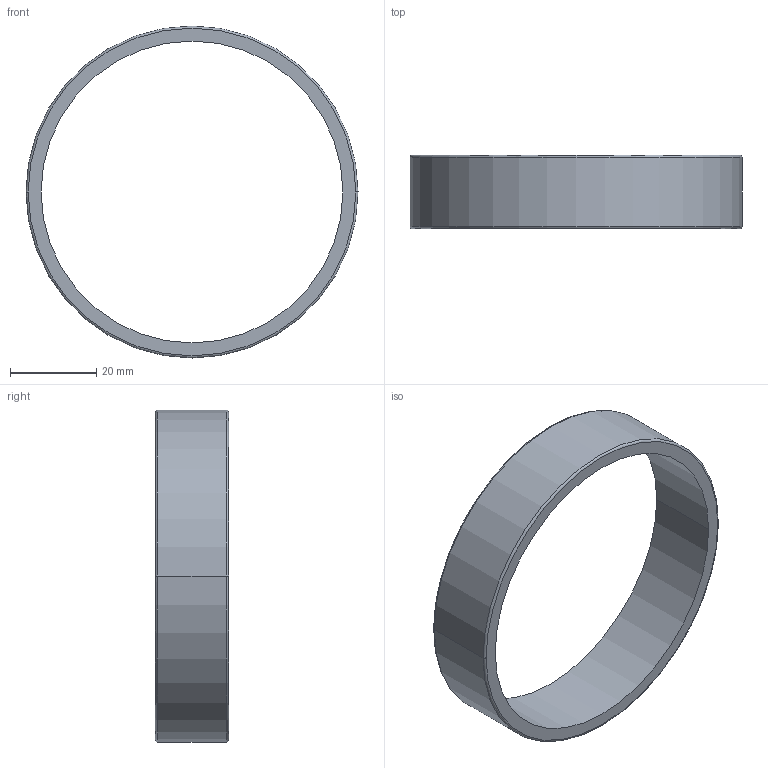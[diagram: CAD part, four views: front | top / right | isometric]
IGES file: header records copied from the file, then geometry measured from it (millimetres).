
Start section: IGES file generated by C3D Converter 1.6 translator by C3D Labs., translator version IGESOUT-5.1.
Global section: file name: HC:\Users\沓膼\OneDrive\Desktop\欙鵳醆TL70\鐕謽僗\扻錪犩.igs; preprocessor: 1.0; author: 沓膼,7; organization: Hunknown; date: -17760826:041600; units: millimetre
Bounding box: 77 x 17 x 77 mm (x, y, z)
Volume: 13713.1 mm3; surface area: 9363.1 mm2
Topology: 1 solids, 1 shells, 10 faces, 20 edges, 12 vertices
Faces by surface type: revolution 8, bspline 2
